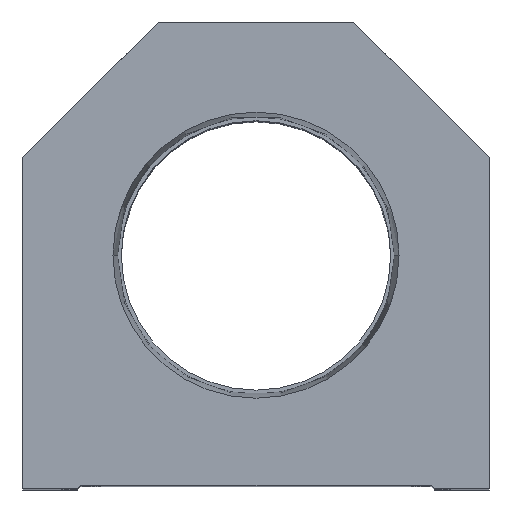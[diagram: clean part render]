
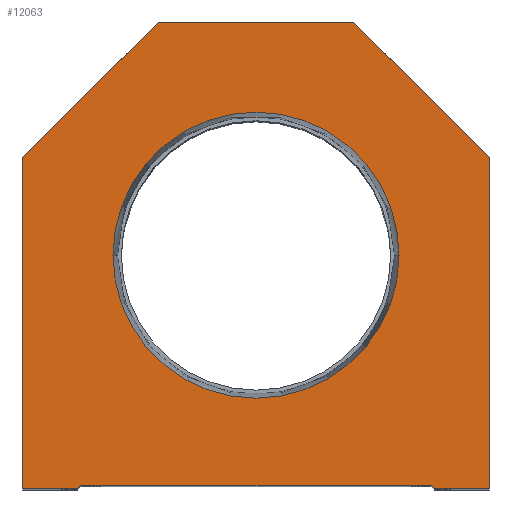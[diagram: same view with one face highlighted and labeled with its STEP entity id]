
A CAD part, top view. The second image highlights one B-rep face of the part: STEP entity #12063.
In plain terms, the highlighted planar face has unit normal (0, 0, 1).
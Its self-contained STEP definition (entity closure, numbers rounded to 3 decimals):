
#275 = AXIS2_PLACEMENT_3D ( 'NONE', #11324, #17110, #6790 ) ;
#704 = CARTESIAN_POINT ( 'NONE',  ( -28.6, 0., 0. ) ) ;
#718 = CARTESIAN_POINT ( 'NONE',  ( 38.1, 54.1, 0. ) ) ;
#862 = LINE ( 'NONE', #1143, #2669 ) ;
#1143 = CARTESIAN_POINT ( 'NONE',  ( 16., 76.2, 0. ) ) ;
#1463 = CARTESIAN_POINT ( 'NONE',  ( -38.1, 0., 0. ) ) ;
#1566 = DIRECTION ( 'NONE',  ( 0., 1., 0. ) ) ;
#1650 = ORIENTED_EDGE ( 'NONE', *, *, #12987, .T. ) ;
#1780 = EDGE_CURVE ( 'NONE', #18494, #18368, #6157, .T. ) ;
#2187 = EDGE_CURVE ( 'NONE', #11077, #3838, #8884, .T. ) ;
#2659 = CARTESIAN_POINT ( 'NONE',  ( -38.1, 0., 0. ) ) ;
#2669 = VECTOR ( 'NONE', #17019, 1000. ) ;
#2880 = ORIENTED_EDGE ( 'NONE', *, *, #5625, .T. ) ;
#2898 = VERTEX_POINT ( 'NONE', #17278 ) ;
#3309 = EDGE_CURVE ( 'NONE', #6462, #6557, #15087, .T. ) ;
#3809 = EDGE_CURVE ( 'NONE', #18368, #13076, #10976, .T. ) ;
#3816 = CARTESIAN_POINT ( 'NONE',  ( -28.6, 0.5, 0. ) ) ;
#3838 = VERTEX_POINT ( 'NONE', #11253 ) ;
#4052 = PLANE ( 'NONE',  #275 ) ;
#4091 = ORIENTED_EDGE ( 'NONE', *, *, #12736, .T. ) ;
#4226 = VECTOR ( 'NONE', #7893, 1000. ) ;
#4601 = CARTESIAN_POINT ( 'NONE',  ( -29.1, 0., 0. ) ) ;
#4681 = DIRECTION ( 'NONE',  ( 1., 0., 0. ) ) ;
#5128 = DIRECTION ( 'NONE',  ( 1., 0., 0. ) ) ;
#5319 = CARTESIAN_POINT ( 'NONE',  ( 28.6, 0.5, 0. ) ) ;
#5536 = AXIS2_PLACEMENT_3D ( 'NONE', #15261, #8270, #6552 ) ;
#5625 = EDGE_CURVE ( 'NONE', #13076, #11077, #12332, .T. ) ;
#6115 = VECTOR ( 'NONE', #13467, 1000. ) ;
#6122 = CIRCLE ( 'NONE', #5536, 23.374 ) ;
#6157 = LINE ( 'NONE', #14500, #14957 ) ;
#6370 = DIRECTION ( 'NONE',  ( -0.707, -0.707, 0. ) ) ;
#6462 = VERTEX_POINT ( 'NONE', #15522 ) ;
#6471 = DIRECTION ( 'NONE',  ( -0.707, 0.707, 0. ) ) ;
#6530 = EDGE_CURVE ( 'NONE', #17094, #7984, #14105, .T. ) ;
#6552 = DIRECTION ( 'NONE',  ( 1., 0., 0. ) ) ;
#6557 = VERTEX_POINT ( 'NONE', #8526 ) ;
#6790 = DIRECTION ( 'NONE',  ( 1., 0., 0. ) ) ;
#6878 = FACE_OUTER_BOUND ( 'NONE', #12265, .T. ) ;
#7338 = AXIS2_PLACEMENT_3D ( 'NONE', #11965, #16402, #4681 ) ;
#7678 = DIRECTION ( 'NONE',  ( 0.707, 0.707, 0. ) ) ;
#7709 = LINE ( 'NONE', #13285, #13873 ) ;
#7893 = DIRECTION ( 'NONE',  ( 0.707, -0.707, 0. ) ) ;
#7984 = VERTEX_POINT ( 'NONE', #1463 ) ;
#8270 = DIRECTION ( 'NONE',  ( 0., 0., 1. ) ) ;
#8526 = CARTESIAN_POINT ( 'NONE',  ( 16., 76.2, 0. ) ) ;
#8577 = EDGE_CURVE ( 'NONE', #7984, #18494, #11865, .T. ) ;
#8587 = EDGE_CURVE ( 'NONE', #13861, #11742, #13685, .T. ) ;
#8884 = LINE ( 'NONE', #11526, #15250 ) ;
#9658 = VECTOR ( 'NONE', #1566, 1000. ) ;
#10968 = VECTOR ( 'NONE', #5128, 1000. ) ;
#10976 = LINE ( 'NONE', #3816, #10968 ) ;
#11077 = VERTEX_POINT ( 'NONE', #17799 ) ;
#11153 = DIRECTION ( 'NONE',  ( 0., -1., 0. ) ) ;
#11253 = CARTESIAN_POINT ( 'NONE',  ( 38.1, 0., 0. ) ) ;
#11292 = ORIENTED_EDGE ( 'NONE', *, *, #12056, .T. ) ;
#11324 = CARTESIAN_POINT ( 'NONE',  ( 0., 0., 0. ) ) ;
#11526 = CARTESIAN_POINT ( 'NONE',  ( 28.6, 0., 0. ) ) ;
#11742 = VERTEX_POINT ( 'NONE', #14055 ) ;
#11849 = CARTESIAN_POINT ( 'NONE',  ( 38.1, 0., 0. ) ) ;
#11865 = LINE ( 'NONE', #704, #6115 ) ;
#11965 = CARTESIAN_POINT ( 'NONE',  ( 0., 38.1, 0. ) ) ;
#12034 = LINE ( 'NONE', #11849, #9658 ) ;
#12056 = EDGE_CURVE ( 'NONE', #6557, #2898, #862, .T. ) ;
#12063 = ADVANCED_FACE ( 'NONE', ( #15489, #6878 ), #4052, .T. ) ;
#12265 = EDGE_LOOP ( 'NONE', ( #17734, #16994, #15830, #2880, #17450, #1650, #18012, #11292, #4091, #17995 ) ) ;
#12332 = LINE ( 'NONE', #15072, #4226 ) ;
#12736 = EDGE_CURVE ( 'NONE', #2898, #17094, #7709, .T. ) ;
#12987 = EDGE_CURVE ( 'NONE', #3838, #6462, #12034, .T. ) ;
#13076 = VERTEX_POINT ( 'NONE', #5319 ) ;
#13285 = CARTESIAN_POINT ( 'NONE',  ( -38.1, 54.1, 0. ) ) ;
#13467 = DIRECTION ( 'NONE',  ( 1., 0., 0. ) ) ;
#13685 = CIRCLE ( 'NONE', #7338, 23.374 ) ;
#13855 = ORIENTED_EDGE ( 'NONE', *, *, #14615, .F. ) ;
#13861 = VERTEX_POINT ( 'NONE', #14885 ) ;
#13873 = VECTOR ( 'NONE', #6370, 1000. ) ;
#14055 = CARTESIAN_POINT ( 'NONE',  ( -23.374, 38.1, 0. ) ) ;
#14105 = LINE ( 'NONE', #2659, #14784 ) ;
#14500 = CARTESIAN_POINT ( 'NONE',  ( -14.55, 14.55, 0. ) ) ;
#14612 = CARTESIAN_POINT ( 'NONE',  ( -38.1, 54.1, 0. ) ) ;
#14615 = EDGE_CURVE ( 'NONE', #11742, #13861, #6122, .T. ) ;
#14666 = DIRECTION ( 'NONE',  ( 1., 0., 0. ) ) ;
#14784 = VECTOR ( 'NONE', #11153, 1000. ) ;
#14885 = CARTESIAN_POINT ( 'NONE',  ( 23.374, 38.1, 0. ) ) ;
#14957 = VECTOR ( 'NONE', #7678, 1000. ) ;
#15072 = CARTESIAN_POINT ( 'NONE',  ( 14.55, 14.55, 0. ) ) ;
#15087 = LINE ( 'NONE', #718, #15525 ) ;
#15250 = VECTOR ( 'NONE', #14666, 1000. ) ;
#15261 = CARTESIAN_POINT ( 'NONE',  ( 0., 38.1, 0. ) ) ;
#15489 = FACE_BOUND ( 'NONE', #16222, .T. ) ;
#15522 = CARTESIAN_POINT ( 'NONE',  ( 38.1, 54.1, 0. ) ) ;
#15525 = VECTOR ( 'NONE', #6471, 1000. ) ;
#15830 = ORIENTED_EDGE ( 'NONE', *, *, #3809, .T. ) ;
#15933 = ORIENTED_EDGE ( 'NONE', *, *, #8587, .F. ) ;
#16222 = EDGE_LOOP ( 'NONE', ( #15933, #13855 ) ) ;
#16402 = DIRECTION ( 'NONE',  ( 0., 0., 1. ) ) ;
#16643 = CARTESIAN_POINT ( 'NONE',  ( -28.6, 0.5, 0. ) ) ;
#16994 = ORIENTED_EDGE ( 'NONE', *, *, #1780, .T. ) ;
#17019 = DIRECTION ( 'NONE',  ( -1., 0., 0. ) ) ;
#17094 = VERTEX_POINT ( 'NONE', #14612 ) ;
#17110 = DIRECTION ( 'NONE',  ( 0., 0., 1. ) ) ;
#17278 = CARTESIAN_POINT ( 'NONE',  ( -16., 76.2, 0. ) ) ;
#17450 = ORIENTED_EDGE ( 'NONE', *, *, #2187, .T. ) ;
#17734 = ORIENTED_EDGE ( 'NONE', *, *, #8577, .T. ) ;
#17799 = CARTESIAN_POINT ( 'NONE',  ( 29.1, 0., 0. ) ) ;
#17995 = ORIENTED_EDGE ( 'NONE', *, *, #6530, .T. ) ;
#18012 = ORIENTED_EDGE ( 'NONE', *, *, #3309, .T. ) ;
#18368 = VERTEX_POINT ( 'NONE', #16643 ) ;
#18494 = VERTEX_POINT ( 'NONE', #4601 ) ;
